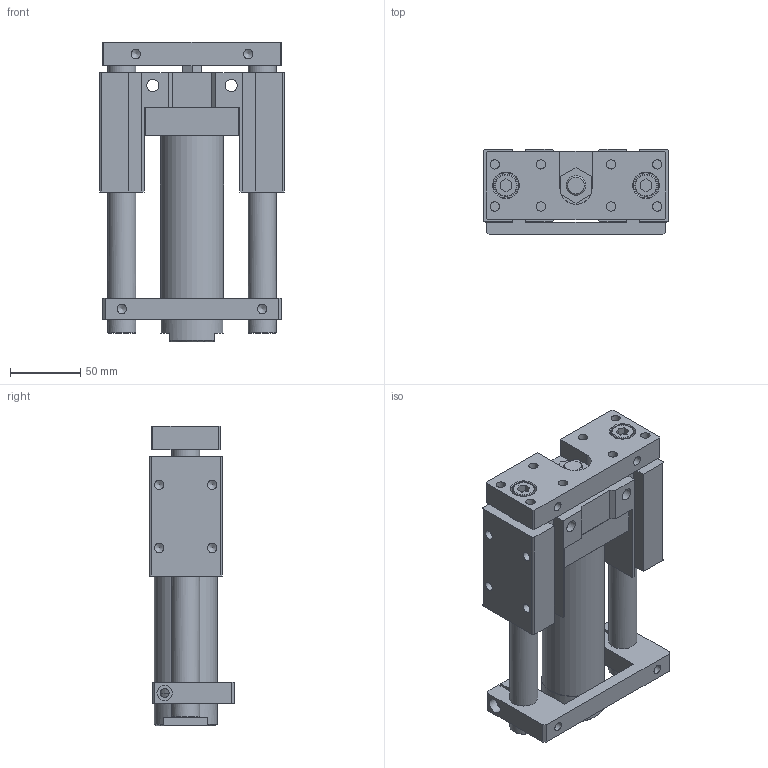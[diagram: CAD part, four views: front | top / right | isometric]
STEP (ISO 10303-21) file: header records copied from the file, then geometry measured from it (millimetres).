
FILE_DESCRIPTION((''),'2;1');
FILE_NAME('I:\3D電子目錄\氣缸\TMB(U)\TMB(U)\TMB(U)40\TMB(U)40x75.stp','2007-10-05T11:41:38',('Administrator'),(''),'Autodesk Inventor 11','Autodesk Inventor 11','');
FILE_SCHEMA(('AUTOMOTIVE_DESIGN { 1 0 10303 214 1 1 1 1 }'));
Length unit declared in the file: millimetre
Products named in the file (1): TMB(U)40
Bounding box: 132 x 61 x 214 mm (x, y, z)
Volume: 819555.1 mm3; surface area: 131434.3 mm2
Topology: 1 solids, 1 shells, 201 faces, 524 edges, 344 vertices
Faces by surface type: plane 118, bspline 41, cylinder 23, cone 17, torus 2
Full cylindrical faces by diameter (mm): 6.5 x2, 6.647 x6, 11 x1, 14 x1, 16 x2, 18 x2, 20 x2, 45 x2
Entity records: 6100 total; most frequent: CARTESIAN_POINT 1571, DIRECTION 870, ORIENTED_EDGE 858, EDGE_CURVE 429, EDGE_LOOP 324, VERTEX_POINT 319, VECTOR 302, LINE 302
